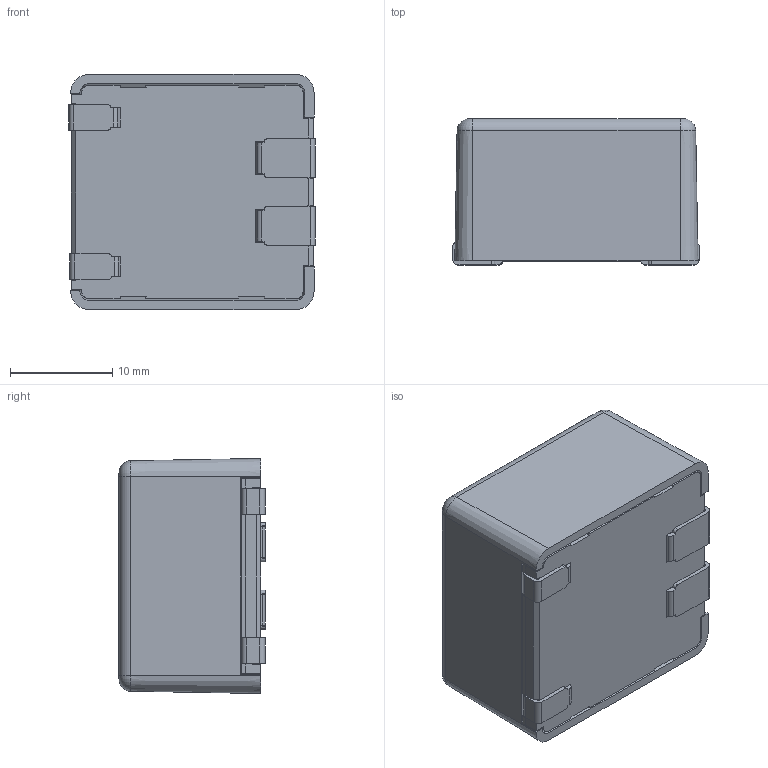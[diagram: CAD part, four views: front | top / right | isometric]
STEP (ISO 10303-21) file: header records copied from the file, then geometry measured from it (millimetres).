
FILE_DESCRIPTION(/* description */ ('Unknown'),/* implementation_level */ '2;1');
FILE_NAME(/* name */ 'TTVS15M76-001',/* time_stamp */ '2023-04-11T12:11:09+08:00',/* author */ ('Unknown'),/* organization */ ('Unknown'),/* preprocessor_version */ 'ST-DEVELOPER v16.7',/* originating_system */ 'Solid Edge',/* authorisation */ 'Unknown');
FILE_SCHEMA (('AUTOMOTIVE_DESIGN {1 0 10303 214 3 1 1}'));
Length unit declared in the file: millimetre
Products named in the file (5): ASM1000000536-ZONGTU-20230323; PRT1000002775; PRT1000002059; prt1000002060-猀陓; prt1000002061-萇憤
Assembly tree (6 placements, depth 2):
  ASM1000000536-ZONGTU-20230323
    PRT1000002775
    PRT1000002059
    prt1000002060-猀陓  x2
    prt1000002061-萇憤  x2
Bounding box: 24.1 x 14.3 x 23 mm (x, y, z)
Volume: 2374.1 mm3; surface area: 5145.2 mm2
Topology: 6 solids, 6 shells, 653 faces, 1820 edges, 1188 vertices
Faces by surface type: plane 497, cylinder 122, cone 27, torus 7
Full cylindrical faces by diameter (mm): 1.55 x1, 2 x1
Entity records: 20588 total; most frequent: CARTESIAN_POINT 3075, ORIENTED_EDGE 3042, DIRECTION 2839, EDGE_CURVE 1521, LINE 1315, VECTOR 1315, VERTEX_POINT 990, AXIS2_PLACEMENT_3D 762
